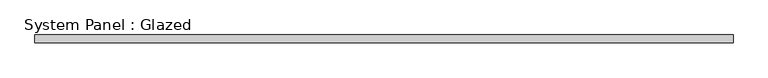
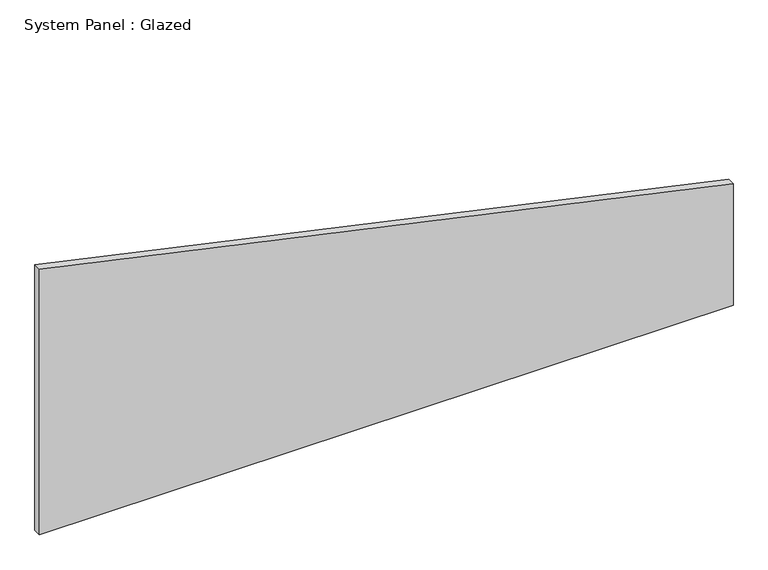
"""IFC4 building model written with IfcOpenShell, lengths in millimetres: plate geometry, System Panel : Glazed."""

from ifc_helpers import new_model, si_unit, frame, origin, place, context, project, spatial, polyline, outline, extrude, source, transform, mapped, element, save


def system_panel_glazed_d7387deb(model_context):
    return source(origin(), model_context, "Body", "SweptSolid", [
        extrude(outline(polyline([(0.0, -1110.7957986), (0.0, 1110.7957986), (411.2109306, 1110.7957986), (899.6749525, -1110.7957986), (0.0, -1110.7957986)])), frame((0.0, -12.7, 0.0), z_axis=(0.0, 1.0, 0.0), x_axis=(0.0, 0.0, 1.0)), (0.0, 0.0, 1.0), 25.4),
    ])


if __name__ == "__main__":
    model = new_model("IFC4")
    model_context = context("Model", 3, world=origin())
    ifc_project = project(units=[si_unit("LENGTHUNIT", "METRE", prefix="MILLI")], contexts=[model_context])
    site = spatial("IfcSite", under=ifc_project)
    building = spatial("IfcBuilding", under=site)
    placement = place(None, origin())
    system_panel_glazed_shape = system_panel_glazed_d7387deb(model_context)
    element("IfcPlate", 1, ObjectType="System Panel : Glazed", at=placement, inside=building, context=model_context, shape_type="MappedRepresentation", body=[
        mapped(system_panel_glazed_shape, transform((0.0, 0.0, 0.0), x_axis=(1.0, 0.0, 0.0), y_axis=(0.0, 1.0, 0.0), z_axis=(0.0, 0.0, 1.0))),
    ])
    save(model, "model.ifc")
